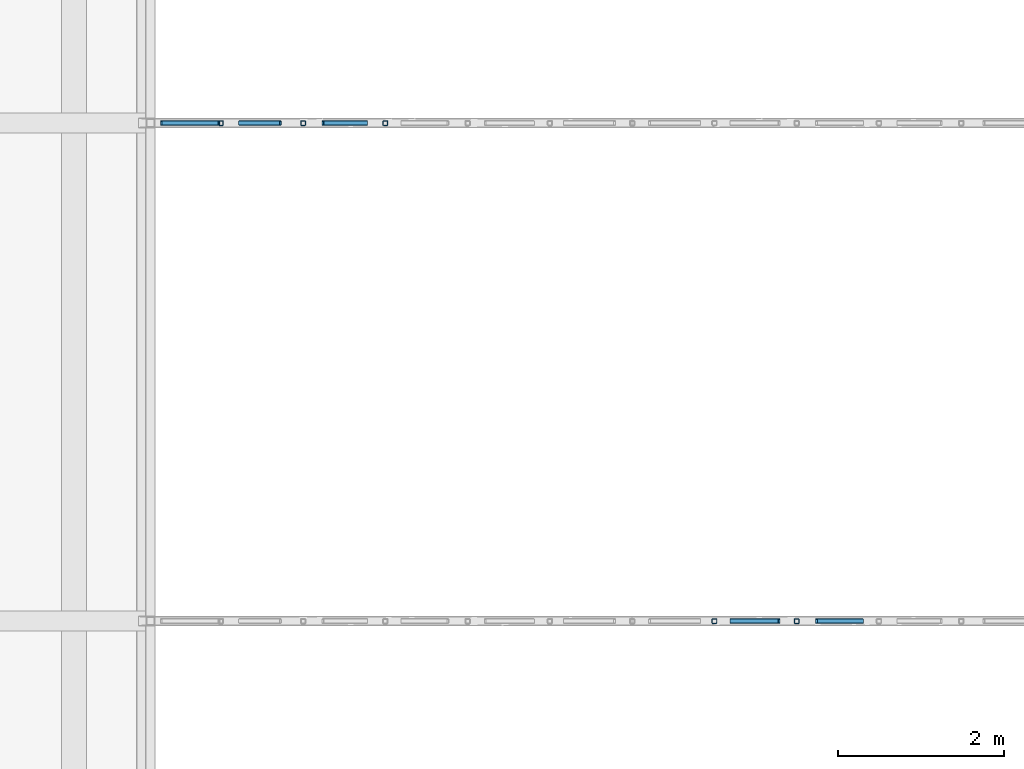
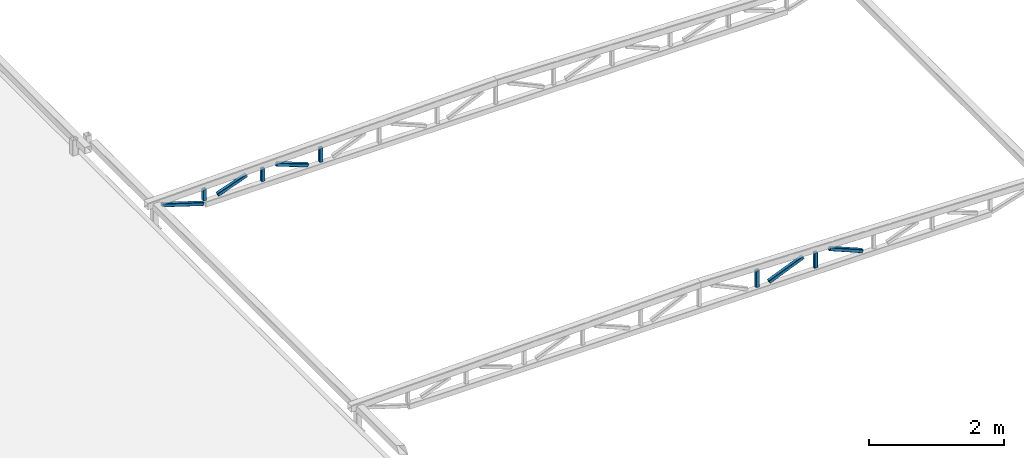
# One storey, part 7 of 12: 10 members, 2 elements without a shape of their own.
"""IFC2X3 building model written with IfcOpenShell, lengths in millimetres."""

from ifc_helpers import new_model, entity, si_unit, converted_unit, derived_unit, direction, frame, frame_2d, origin, place, context, subcontext, project, spatial, polyline, circle_curve, parameter, trimmed, segment, composite_curve, outline, extrude, source, transform, mapped, type_object, type_shapes, element, aggregate, save


model = new_model("IFC2X3")

# Units and contexts
model_context = context("Model", 3, precision=0.01, world=origin(), true_north=direction((6.12303176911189e-17, 1.0)))
body_context = subcontext(model_context, "Body", "Model", "MODEL_VIEW")
ifc_project = project(units=[si_unit("LENGTHUNIT", "METRE", prefix="MILLI"), si_unit("AREAUNIT", "SQUARE_METRE"), si_unit("VOLUMEUNIT", "CUBIC_METRE"), converted_unit("PLANEANGLEUNIT", "DEGREE", entity("IfcRatioMeasure", 0.0174532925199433), si_unit("PLANEANGLEUNIT", "RADIAN"), dimensions=[0, 0, 0, 0, 0, 0, 0]), si_unit("MASSUNIT", "GRAM", prefix="KILO"), derived_unit("MASSDENSITYUNIT", [(si_unit("MASSUNIT", "GRAM", prefix="KILO"), 1), (si_unit("LENGTHUNIT", "METRE"), -3)]), si_unit("TIMEUNIT", "SECOND"), si_unit("FREQUENCYUNIT", "HERTZ"), si_unit("THERMODYNAMICTEMPERATUREUNIT", "DEGREE_CELSIUS"), derived_unit("THERMALTRANSMITTANCEUNIT", [(si_unit("MASSUNIT", "GRAM", prefix="KILO"), 1), (si_unit("THERMODYNAMICTEMPERATUREUNIT", "KELVIN"), -1), (si_unit("TIMEUNIT", "SECOND"), -3)]), derived_unit("VOLUMETRICFLOWRATEUNIT", [(si_unit("LENGTHUNIT", "METRE"), 3), (si_unit("TIMEUNIT", "SECOND"), -1)]), si_unit("ELECTRICCURRENTUNIT", "AMPERE"), si_unit("ELECTRICVOLTAGEUNIT", "VOLT"), si_unit("POWERUNIT", "WATT"), si_unit("FORCEUNIT", "NEWTON", prefix="KILO"), si_unit("ILLUMINANCEUNIT", "LUX"), si_unit("LUMINOUSFLUXUNIT", "LUMEN"), si_unit("LUMINOUSINTENSITYUNIT", "CANDELA"), derived_unit("USERDEFINED", [(si_unit("MASSUNIT", "GRAM", prefix="KILO"), -1), (si_unit("LENGTHUNIT", "METRE"), -2), (si_unit("TIMEUNIT", "SECOND"), 3), (si_unit("LUMINOUSFLUXUNIT", "LUMEN"), 1)]), derived_unit("LINEARVELOCITYUNIT", [(si_unit("LENGTHUNIT", "METRE"), 1), (si_unit("TIMEUNIT", "SECOND"), -1)]), si_unit("PRESSUREUNIT", "PASCAL"), derived_unit("USERDEFINED", [(si_unit("LENGTHUNIT", "METRE"), -2), (si_unit("MASSUNIT", "GRAM", prefix="KILO"), 1), (si_unit("TIMEUNIT", "SECOND"), -2)])], contexts=[model_context])

# Site, building, storey
site_placement = place(None, frame((0.0, 0.0, 101000.0)))
site = spatial("IfcSite", under=ifc_project, at=site_placement, Name="Default", CompositionType="ELEMENT")
building_placement = place(site_placement, origin())
building = spatial("IfcBuilding", under=site, at=building_placement, CompositionType="ELEMENT")
storey_placement = place(building_placement, frame((0.0, 0.0, 6025.0)))
storey = spatial("IfcBuildingStorey", under=building, at=storey_placement, Name="03", CompositionType="ELEMENT", Elevation=6024.9999999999)

# Assembly, member
assembly_1_placement = place(storey_placement, origin())
assembly_1 = element("IfcElementAssembly", 1, at=assembly_1_placement, inside=storey, Name="Gitterdrager:Standard", ObjectType="Gitterdrager:Standard", AssemblyPlace="NOTDEFINED", PredefinedType="TRUSS")
member_type_1 = type_object("IfcMemberType", Name="60x60x5", PredefinedType="BRACE")
shared_shape_1 = source(origin(), body_context, "Body", "SweptSolid", [
    extrude(outline(composite_curve([segment(trimmed(circle_curve(frame_2d((-20.0, -20.0), x_axis=(1.0, 0.0)), 10.0), [parameter(180.0)], [parameter(270.0)], True, "PARAMETER"), True, "CONTINUOUS"), segment(polyline([(-20.0, -30.0), (20.0, -30.0)]), True, "CONTINUOUS"), segment(trimmed(circle_curve(frame_2d((20.0, -20.0), x_axis=(1.0, 0.0)), 10.0), [parameter(270.0)], [parameter(5.08888749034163e-14)], True, "PARAMETER"), True, "CONTINUOUS"), segment(polyline([(30.0, -20.0), (30.0, 20.0)]), True, "CONTINUOUS"), segment(trimmed(circle_curve(frame_2d((20.0, 20.0), x_axis=(1.0, 0.0)), 10.0), [parameter(360.0)], [parameter(89.9999999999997)], True, "PARAMETER"), True, "CONTINUOUS"), segment(polyline([(20.0, 30.0), (-20.0, 30.0)]), True, "CONTINUOUS"), segment(trimmed(circle_curve(frame_2d((-20.0, 20.0), x_axis=(1.0, 0.0)), 10.0), [parameter(90.0000000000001)], [parameter(180.0)], True, "PARAMETER"), True, "CONTINUOUS"), segment(polyline([(-30.0, 20.0), (-30.0, -20.0)]), True, "CONTINUOUS")], self_intersect=False), holes=[composite_curve([segment(polyline([(20.0, -25.0), (-20.0, -25.0)]), True, "CONTINUOUS"), segment(trimmed(circle_curve(frame_2d((-20.0, -20.0), x_axis=(1.0, 0.0)), 5.0), [parameter(180.0)], [parameter(270.0)], True, "PARAMETER"), False, "CONTINUOUS"), segment(polyline([(-25.0, -20.0), (-25.0, 20.0)]), True, "CONTINUOUS"), segment(trimmed(circle_curve(frame_2d((-20.0, 20.0), x_axis=(1.0, 0.0)), 5.0), [parameter(90.0000000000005)], [parameter(180.0)], True, "PARAMETER"), False, "CONTINUOUS"), segment(polyline([(-20.0, 25.0), (20.0, 25.0)]), True, "CONTINUOUS"), segment(trimmed(circle_curve(frame_2d((20.0, 20.0), x_axis=(1.0, 0.0)), 5.0), [parameter(0.0)], [parameter(90.0000000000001)], True, "PARAMETER"), False, "CONTINUOUS"), segment(polyline([(25.0, 20.0), (25.0, -20.0)]), True, "CONTINUOUS"), segment(trimmed(circle_curve(frame_2d((20.0, -20.0), x_axis=(1.0, 0.0)), 5.0), [parameter(270.0)], [parameter(4.57999874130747e-13)], True, "PARAMETER"), False, "CONTINUOUS")], self_intersect=False)]), frame((-155.792423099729, 0.0, 0.0), z_axis=(1.0, 0.0, 0.0), x_axis=(0.0, -1.0, 0.0)), (0.0, 0.0, 1.0), 300.049419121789),
])
type_shapes(member_type_1, [shared_shape_1])
member_1_placement = place(assembly_1_placement, frame((18219.5978303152, 32417.9507529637, -122.531331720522), z_axis=(1.0, 0.0, 0.0), x_axis=(0.0, 0.0, 1.0)))
member_1 = element("IfcMember", 2, at=member_1_placement, type_object=member_type_1, Name="Bjelke HUP:60x60x5", ObjectType="60x60x5", context=body_context, shape_type="MappedRepresentation", body=[
    mapped(shared_shape_1, transform((0.0, 0.0, 0.0), scale=1.0)),
])

# Assembly, members
assembly_2_placement = place(storey_placement, origin())
assembly_2 = element("IfcElementAssembly", 3, at=assembly_2_placement, inside=storey, Name="Gitterdrager:Standard", ObjectType="Gitterdrager:Standard", AssemblyPlace="NOTDEFINED", PredefinedType="TRUSS")
member_type_2 = type_object("IfcMemberType", Name="60x60x5", PredefinedType="BRACE")
shared_shape_2 = source(origin(), body_context, "Body", "SweptSolid", [
    extrude(outline(composite_curve([segment(trimmed(circle_curve(frame_2d((-20.0, -20.0), x_axis=(1.0, 0.0)), 10.0), [parameter(180.0)], [parameter(270.0)], True, "PARAMETER"), True, "CONTINUOUS"), segment(polyline([(-20.0, -30.0), (20.0, -30.0)]), True, "CONTINUOUS"), segment(trimmed(circle_curve(frame_2d((20.0, -20.0), x_axis=(1.0, 0.0)), 10.0), [parameter(270.0)], [parameter(5.08888749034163e-14)], True, "PARAMETER"), True, "CONTINUOUS"), segment(polyline([(30.0, -20.0), (30.0, 20.0)]), True, "CONTINUOUS"), segment(trimmed(circle_curve(frame_2d((20.0, 20.0), x_axis=(1.0, 0.0)), 10.0), [parameter(360.0)], [parameter(89.9999999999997)], True, "PARAMETER"), True, "CONTINUOUS"), segment(polyline([(20.0, 30.0), (-20.0, 30.0)]), True, "CONTINUOUS"), segment(trimmed(circle_curve(frame_2d((-20.0, 20.0), x_axis=(1.0, 0.0)), 10.0), [parameter(90.0000000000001)], [parameter(180.0)], True, "PARAMETER"), True, "CONTINUOUS"), segment(polyline([(-30.0, 20.0), (-30.0, -20.0)]), True, "CONTINUOUS")], self_intersect=False), holes=[composite_curve([segment(polyline([(20.0, -25.0), (-20.0, -25.0)]), True, "CONTINUOUS"), segment(trimmed(circle_curve(frame_2d((-20.0, -20.0), x_axis=(1.0, 0.0)), 5.0), [parameter(180.0)], [parameter(270.0)], True, "PARAMETER"), False, "CONTINUOUS"), segment(polyline([(-25.0, -20.0), (-25.0, 20.0)]), True, "CONTINUOUS"), segment(trimmed(circle_curve(frame_2d((-20.0, 20.0), x_axis=(1.0, 0.0)), 5.0), [parameter(90.0000000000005)], [parameter(180.0)], True, "PARAMETER"), False, "CONTINUOUS"), segment(polyline([(-20.0, 25.0), (20.0, 25.0)]), True, "CONTINUOUS"), segment(trimmed(circle_curve(frame_2d((20.0, 20.0), x_axis=(1.0, 0.0)), 5.0), [parameter(0.0)], [parameter(90.0000000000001)], True, "PARAMETER"), False, "CONTINUOUS"), segment(polyline([(25.0, 20.0), (25.0, -20.0)]), True, "CONTINUOUS"), segment(trimmed(circle_curve(frame_2d((20.0, -20.0), x_axis=(1.0, 0.0)), 5.0), [parameter(270.0)], [parameter(4.57999874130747e-13)], True, "PARAMETER"), False, "CONTINUOUS")], self_intersect=False)]), frame((-130.995453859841, 0.0, 0.0), z_axis=(1.0, 0.0, 0.0), x_axis=(0.0, -1.0, 0.0)), (0.0, 0.0, 1.0), 250.455480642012),
])
type_shapes(member_type_2, [shared_shape_2])
member_2_placement = place(assembly_2_placement, frame((14246.2644969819, 38432.1864743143, -147.328300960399), z_axis=(1.0, 0.0, 0.0), x_axis=(0.0, 0.0, 1.0)))
member_2 = element("IfcMember", 4, at=member_2_placement, type_object=member_type_2, Name="Bjelke HUP:60x60x5", ObjectType="60x60x5", context=body_context, shape_type="MappedRepresentation", body=[
    mapped(shared_shape_2, transform((0.0, 0.0, 0.0), scale=1.0)),
])
member_type_3 = type_object("IfcMemberType", Name="60x60x5", PredefinedType="BRACE")
shared_shape_3 = source(origin(), body_context, "Body", "SweptSolid", [
    extrude(outline(composite_curve([segment(trimmed(circle_curve(frame_2d((-20.0, -20.0), x_axis=(1.0, 0.0)), 10.0), [parameter(180.0)], [parameter(270.0)], True, "PARAMETER"), True, "CONTINUOUS"), segment(polyline([(-20.0, -30.0), (20.0, -30.0)]), True, "CONTINUOUS"), segment(trimmed(circle_curve(frame_2d((20.0, -20.0), x_axis=(1.0, 0.0)), 10.0), [parameter(270.0)], [parameter(5.08888749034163e-14)], True, "PARAMETER"), True, "CONTINUOUS"), segment(polyline([(30.0, -20.0), (30.0, 20.0)]), True, "CONTINUOUS"), segment(trimmed(circle_curve(frame_2d((20.0, 20.0), x_axis=(1.0, 0.0)), 10.0), [parameter(360.0)], [parameter(89.9999999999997)], True, "PARAMETER"), True, "CONTINUOUS"), segment(polyline([(20.0, 30.0), (-20.0, 30.0)]), True, "CONTINUOUS"), segment(trimmed(circle_curve(frame_2d((-20.0, 20.0), x_axis=(1.0, 0.0)), 10.0), [parameter(90.0000000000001)], [parameter(180.0)], True, "PARAMETER"), True, "CONTINUOUS"), segment(polyline([(-30.0, 20.0), (-30.0, -20.0)]), True, "CONTINUOUS")], self_intersect=False), holes=[composite_curve([segment(polyline([(20.0, -25.0), (-20.0, -25.0)]), True, "CONTINUOUS"), segment(trimmed(circle_curve(frame_2d((-20.0, -20.0), x_axis=(1.0, 0.0)), 5.0), [parameter(180.0)], [parameter(270.0)], True, "PARAMETER"), False, "CONTINUOUS"), segment(polyline([(-25.0, -20.0), (-25.0, 20.0)]), True, "CONTINUOUS"), segment(trimmed(circle_curve(frame_2d((-20.0, 20.0), x_axis=(1.0, 0.0)), 5.0), [parameter(90.0000000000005)], [parameter(180.0)], True, "PARAMETER"), False, "CONTINUOUS"), segment(polyline([(-20.0, 25.0), (20.0, 25.0)]), True, "CONTINUOUS"), segment(trimmed(circle_curve(frame_2d((20.0, 20.0), x_axis=(1.0, 0.0)), 5.0), [parameter(0.0)], [parameter(90.0000000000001)], True, "PARAMETER"), False, "CONTINUOUS"), segment(polyline([(25.0, 20.0), (25.0, -20.0)]), True, "CONTINUOUS"), segment(trimmed(circle_curve(frame_2d((20.0, -20.0), x_axis=(1.0, 0.0)), 5.0), [parameter(270.0)], [parameter(4.57999874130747e-13)], True, "PARAMETER"), False, "CONTINUOUS")], self_intersect=False)]), frame((-118.596969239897, 0.0, 0.0), z_axis=(1.0, 0.0, 0.0), x_axis=(0.0, -1.0, 0.0)), (0.0, 0.0, 1.0), 225.658511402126),
])
type_shapes(member_type_3, [shared_shape_3])
member_3_placement = place(assembly_2_placement, frame((13252.9311636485, 38432.1864743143, -159.726785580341), z_axis=(1.0, 0.0, 0.0), x_axis=(0.0, 0.0, 1.0)))
member_3 = element("IfcMember", 5, at=member_3_placement, type_object=member_type_3, Name="Bjelke HUP:60x60x5", ObjectType="60x60x5", context=body_context, shape_type="MappedRepresentation", body=[
    mapped(shared_shape_3, transform((0.0, 0.0, 0.0), scale=1.0)),
])

# Member
member_type_4 = type_object("IfcMemberType", Name="60x60x5", PredefinedType="BRACE")
shared_shape_4 = source(origin(), body_context, "Body", "SweptSolid", [
    extrude(outline(composite_curve([segment(trimmed(circle_curve(frame_2d((-20.0, -20.0), x_axis=(1.0, 0.0)), 10.0), [parameter(180.0)], [parameter(270.0)], True, "PARAMETER"), True, "CONTINUOUS"), segment(polyline([(-20.0, -30.0), (20.0, -30.0)]), True, "CONTINUOUS"), segment(trimmed(circle_curve(frame_2d((20.0, -20.0), x_axis=(1.0, 0.0)), 10.0), [parameter(270.0)], [parameter(5.08888749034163e-14)], True, "PARAMETER"), True, "CONTINUOUS"), segment(polyline([(30.0, -20.0), (30.0, 20.0)]), True, "CONTINUOUS"), segment(trimmed(circle_curve(frame_2d((20.0, 20.0), x_axis=(1.0, 0.0)), 10.0), [parameter(360.0)], [parameter(89.9999999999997)], True, "PARAMETER"), True, "CONTINUOUS"), segment(polyline([(20.0, 30.0), (-20.0, 30.0)]), True, "CONTINUOUS"), segment(trimmed(circle_curve(frame_2d((-20.0, 20.0), x_axis=(1.0, 0.0)), 10.0), [parameter(90.0000000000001)], [parameter(180.0)], True, "PARAMETER"), True, "CONTINUOUS"), segment(polyline([(-30.0, 20.0), (-30.0, -20.0)]), True, "CONTINUOUS")], self_intersect=False), holes=[composite_curve([segment(polyline([(20.0, -25.0), (-20.0, -25.0)]), True, "CONTINUOUS"), segment(trimmed(circle_curve(frame_2d((-20.0, -20.0), x_axis=(1.0, 0.0)), 5.0), [parameter(180.0)], [parameter(270.0)], True, "PARAMETER"), False, "CONTINUOUS"), segment(polyline([(-25.0, -20.0), (-25.0, 20.0)]), True, "CONTINUOUS"), segment(trimmed(circle_curve(frame_2d((-20.0, 20.0), x_axis=(1.0, 0.0)), 5.0), [parameter(90.0000000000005)], [parameter(180.0)], True, "PARAMETER"), False, "CONTINUOUS"), segment(polyline([(-20.0, 25.0), (20.0, 25.0)]), True, "CONTINUOUS"), segment(trimmed(circle_curve(frame_2d((20.0, 20.0), x_axis=(1.0, 0.0)), 5.0), [parameter(0.0)], [parameter(90.0000000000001)], True, "PARAMETER"), False, "CONTINUOUS"), segment(polyline([(25.0, 20.0), (25.0, -20.0)]), True, "CONTINUOUS"), segment(trimmed(circle_curve(frame_2d((20.0, -20.0), x_axis=(1.0, 0.0)), 5.0), [parameter(270.0)], [parameter(4.57999874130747e-13)], True, "PARAMETER"), False, "CONTINUOUS")], self_intersect=False)]), frame((-143.393938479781, 0.0, 0.0), z_axis=(1.0, 0.0, 0.0), x_axis=(0.0, -1.0, 0.0)), (0.0, 0.0, 1.0), 275.252449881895),
])
type_shapes(member_type_4, [shared_shape_4])
member_4_placement = place(assembly_1_placement, frame((19212.9311636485, 32417.9507529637, -134.929816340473), z_axis=(1.0, 0.0, 0.0), x_axis=(0.0, 0.0, 1.0)))
member_4 = element("IfcMember", 6, at=member_4_placement, type_object=member_type_4, Name="Bjelke HUP:60x60x5", ObjectType="60x60x5", context=body_context, shape_type="MappedRepresentation", body=[
    mapped(shared_shape_4, transform((0.0, 0.0, 0.0), scale=1.0)),
])

member_type_5 = type_object("IfcMemberType", Name="60x60x5", PredefinedType="BRACE")
shared_shape_5 = source(origin(), body_context, "Body", "SweptSolid", [
    extrude(outline(composite_curve([segment(trimmed(circle_curve(frame_2d((-20.0, -20.0), x_axis=(1.0, 0.0)), 10.0), [parameter(180.0)], [parameter(270.0)], True, "PARAMETER"), True, "CONTINUOUS"), segment(polyline([(-20.0, -30.0), (20.0, -30.0)]), True, "CONTINUOUS"), segment(trimmed(circle_curve(frame_2d((20.0, -20.0), x_axis=(1.0, 0.0)), 10.0), [parameter(270.0)], [parameter(5.08888749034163e-14)], True, "PARAMETER"), True, "CONTINUOUS"), segment(polyline([(30.0, -20.0), (30.0, 20.0)]), True, "CONTINUOUS"), segment(trimmed(circle_curve(frame_2d((20.0, 20.0), x_axis=(1.0, 0.0)), 10.0), [parameter(360.0)], [parameter(89.9999999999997)], True, "PARAMETER"), True, "CONTINUOUS"), segment(polyline([(20.0, 30.0), (-20.0, 30.0)]), True, "CONTINUOUS"), segment(trimmed(circle_curve(frame_2d((-20.0, 20.0), x_axis=(1.0, 0.0)), 10.0), [parameter(90.0000000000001)], [parameter(180.0)], True, "PARAMETER"), True, "CONTINUOUS"), segment(polyline([(-30.0, 20.0), (-30.0, -20.0)]), True, "CONTINUOUS")], self_intersect=False), holes=[composite_curve([segment(polyline([(20.0, -25.0), (-20.0, -25.0)]), True, "CONTINUOUS"), segment(trimmed(circle_curve(frame_2d((-20.0, -20.0), x_axis=(1.0, 0.0)), 5.0), [parameter(180.0)], [parameter(270.0)], True, "PARAMETER"), False, "CONTINUOUS"), segment(polyline([(-25.0, -20.0), (-25.0, 20.0)]), True, "CONTINUOUS"), segment(trimmed(circle_curve(frame_2d((-20.0, 20.0), x_axis=(1.0, 0.0)), 5.0), [parameter(90.0000000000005)], [parameter(180.0)], True, "PARAMETER"), False, "CONTINUOUS"), segment(polyline([(-20.0, 25.0), (20.0, 25.0)]), True, "CONTINUOUS"), segment(trimmed(circle_curve(frame_2d((20.0, 20.0), x_axis=(1.0, 0.0)), 5.0), [parameter(0.0)], [parameter(90.0000000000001)], True, "PARAMETER"), False, "CONTINUOUS"), segment(polyline([(25.0, 20.0), (25.0, -20.0)]), True, "CONTINUOUS"), segment(trimmed(circle_curve(frame_2d((20.0, -20.0), x_axis=(1.0, 0.0)), 5.0), [parameter(270.0)], [parameter(4.57999874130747e-13)], True, "PARAMETER"), False, "CONTINUOUS")], self_intersect=False)]), frame((-106.198484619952, 0.0, 0.0), z_axis=(1.0, 0.0, 0.0), x_axis=(0.0, -1.0, 0.0)), (0.0, 0.0, 1.0), 200.861542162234),
])
type_shapes(member_type_5, [shared_shape_5])
member_5_placement = place(assembly_2_placement, frame((12259.5978303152, 38432.1864743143, -172.12527020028), z_axis=(1.0, 0.0, 0.0), x_axis=(0.0, 0.0, 1.0)))
member_5 = element("IfcMember", 7, at=member_5_placement, type_object=member_type_5, Name="Bjelke HUP:60x60x5", ObjectType="60x60x5", context=body_context, shape_type="MappedRepresentation", body=[
    mapped(shared_shape_5, transform((0.0, 0.0, 0.0), scale=1.0)),
])

member_type_6 = type_object("IfcMemberType", Name="60x60x5", PredefinedType="BRACE")
shared_shape_6 = source(origin(), body_context, "Body", "SweptSolid", [
    extrude(outline(composite_curve([segment(trimmed(circle_curve(frame_2d((-20.0, -20.0), x_axis=(1.0, 0.0)), 10.0), [parameter(180.0)], [parameter(270.0)], True, "PARAMETER"), True, "CONTINUOUS"), segment(polyline([(-20.0, -30.0), (20.0, -30.0)]), True, "CONTINUOUS"), segment(trimmed(circle_curve(frame_2d((20.0, -20.0), x_axis=(1.0, 0.0)), 10.0), [parameter(270.0)], [parameter(5.08888749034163e-14)], True, "PARAMETER"), True, "CONTINUOUS"), segment(polyline([(30.0, -20.0), (30.0, 20.0)]), True, "CONTINUOUS"), segment(trimmed(circle_curve(frame_2d((20.0, 20.0), x_axis=(1.0, 0.0)), 10.0), [parameter(360.0)], [parameter(89.9999999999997)], True, "PARAMETER"), True, "CONTINUOUS"), segment(polyline([(20.0, 30.0), (-20.0, 30.0)]), True, "CONTINUOUS"), segment(trimmed(circle_curve(frame_2d((-20.0, 20.0), x_axis=(1.0, 0.0)), 10.0), [parameter(90.0000000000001)], [parameter(180.0)], True, "PARAMETER"), True, "CONTINUOUS"), segment(polyline([(-30.0, 20.0), (-30.0, -20.0)]), True, "CONTINUOUS")], self_intersect=False), holes=[composite_curve([segment(polyline([(20.0, -25.0), (-20.0, -25.0)]), True, "CONTINUOUS"), segment(trimmed(circle_curve(frame_2d((-20.0, -20.0), x_axis=(1.0, 0.0)), 5.0), [parameter(180.0)], [parameter(270.0)], True, "PARAMETER"), False, "CONTINUOUS"), segment(polyline([(-25.0, -20.0), (-25.0, 20.0)]), True, "CONTINUOUS"), segment(trimmed(circle_curve(frame_2d((-20.0, 20.0), x_axis=(1.0, 0.0)), 5.0), [parameter(90.0000000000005)], [parameter(180.0)], True, "PARAMETER"), False, "CONTINUOUS"), segment(polyline([(-20.0, 25.0), (20.0, 25.0)]), True, "CONTINUOUS"), segment(trimmed(circle_curve(frame_2d((20.0, 20.0), x_axis=(1.0, 0.0)), 5.0), [parameter(0.0)], [parameter(90.0000000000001)], True, "PARAMETER"), False, "CONTINUOUS"), segment(polyline([(25.0, 20.0), (25.0, -20.0)]), True, "CONTINUOUS"), segment(trimmed(circle_curve(frame_2d((20.0, -20.0), x_axis=(1.0, 0.0)), 5.0), [parameter(270.0)], [parameter(4.57999874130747e-13)], True, "PARAMETER"), False, "CONTINUOUS")], self_intersect=False)]), frame((-273.871385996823, 0.0, 0.0), z_axis=(1.0, 0.0, 0.0), x_axis=(0.0, -1.0, 0.0)), (0.0, 0.0, 1.0), 561.89082896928),
])
type_shapes(member_type_6, [shared_shape_6])
member_6_placement = place(assembly_2_placement, frame((13749.5978303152, 38432.1864743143, -159.726785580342), z_axis=(-0.342896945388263, 0.0, -0.939373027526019), x_axis=(0.939373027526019, 0.0, -0.342896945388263)))
member_6 = element("IfcMember", 8, at=member_6_placement, type_object=member_type_6, Name="Bjelke HUP:60x60x5", ObjectType="60x60x5", context=body_context, shape_type="MappedRepresentation", body=[
    mapped(shared_shape_6, transform((0.0, 0.0, 0.0), scale=1.0)),
])

member_type_7 = type_object("IfcMemberType", Name="60x60x5", PredefinedType="BRACE")
shared_shape_7 = source(origin(), body_context, "Body", "SweptSolid", [
    extrude(outline(composite_curve([segment(trimmed(circle_curve(frame_2d((-20.0, -20.0), x_axis=(1.0, 0.0)), 10.0), [parameter(180.0)], [parameter(270.0)], True, "PARAMETER"), True, "CONTINUOUS"), segment(polyline([(-20.0, -30.0), (20.0, -30.0)]), True, "CONTINUOUS"), segment(trimmed(circle_curve(frame_2d((20.0, -20.0), x_axis=(1.0, 0.0)), 10.0), [parameter(270.0)], [parameter(5.08888749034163e-14)], True, "PARAMETER"), True, "CONTINUOUS"), segment(polyline([(30.0, -20.0), (30.0, 20.0)]), True, "CONTINUOUS"), segment(trimmed(circle_curve(frame_2d((20.0, 20.0), x_axis=(1.0, 0.0)), 10.0), [parameter(360.0)], [parameter(89.9999999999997)], True, "PARAMETER"), True, "CONTINUOUS"), segment(polyline([(20.0, 30.0), (-20.0, 30.0)]), True, "CONTINUOUS"), segment(trimmed(circle_curve(frame_2d((-20.0, 20.0), x_axis=(1.0, 0.0)), 10.0), [parameter(90.0000000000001)], [parameter(180.0)], True, "PARAMETER"), True, "CONTINUOUS"), segment(polyline([(-30.0, 20.0), (-30.0, -20.0)]), True, "CONTINUOUS")], self_intersect=False), holes=[composite_curve([segment(polyline([(20.0, -25.0), (-20.0, -25.0)]), True, "CONTINUOUS"), segment(trimmed(circle_curve(frame_2d((-20.0, -20.0), x_axis=(1.0, 0.0)), 5.0), [parameter(180.0)], [parameter(270.0)], True, "PARAMETER"), False, "CONTINUOUS"), segment(polyline([(-25.0, -20.0), (-25.0, 20.0)]), True, "CONTINUOUS"), segment(trimmed(circle_curve(frame_2d((-20.0, 20.0), x_axis=(1.0, 0.0)), 5.0), [parameter(90.0000000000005)], [parameter(180.0)], True, "PARAMETER"), False, "CONTINUOUS"), segment(polyline([(-20.0, 25.0), (20.0, 25.0)]), True, "CONTINUOUS"), segment(trimmed(circle_curve(frame_2d((20.0, 20.0), x_axis=(1.0, 0.0)), 5.0), [parameter(0.0)], [parameter(90.0000000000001)], True, "PARAMETER"), False, "CONTINUOUS"), segment(polyline([(25.0, 20.0), (25.0, -20.0)]), True, "CONTINUOUS"), segment(trimmed(circle_curve(frame_2d((20.0, -20.0), x_axis=(1.0, 0.0)), 5.0), [parameter(270.0)], [parameter(4.57999874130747e-13)], True, "PARAMETER"), False, "CONTINUOUS")], self_intersect=False)]), frame((-322.274622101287, 0.0, 0.0), z_axis=(1.0, 0.0, 0.0), x_axis=(0.0, -1.0, 0.0)), (0.0, 0.0, 1.0), 630.214484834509),
])
type_shapes(member_type_7, [shared_shape_7])
member_7_placement = place(assembly_1_placement, frame((18716.2644969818, 32417.9507529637, -134.92981634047), z_axis=(0.383267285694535, 0.0, -0.923637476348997), x_axis=(0.923637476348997, 0.0, 0.383267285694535)))
member_7 = element("IfcMember", 9, at=member_7_placement, type_object=member_type_7, Name="Bjelke HUP:60x60x5", ObjectType="60x60x5", context=body_context, shape_type="MappedRepresentation", body=[
    mapped(shared_shape_7, transform((0.0, 0.0, 0.0), scale=1.0)),
])

member_type_8 = type_object("IfcMemberType", Name="60x60x5", PredefinedType="BRACE")
shared_shape_8 = source(origin(), body_context, "Body", "SweptSolid", [
    extrude(outline(composite_curve([segment(trimmed(circle_curve(frame_2d((-20.0, -20.0), x_axis=(1.0, 0.0)), 10.0), [parameter(180.0)], [parameter(270.0)], True, "PARAMETER"), True, "CONTINUOUS"), segment(polyline([(-20.0, -30.0), (20.0, -30.0)]), True, "CONTINUOUS"), segment(trimmed(circle_curve(frame_2d((20.0, -20.0), x_axis=(1.0, 0.0)), 10.0), [parameter(270.0)], [parameter(5.08888749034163e-14)], True, "PARAMETER"), True, "CONTINUOUS"), segment(polyline([(30.0, -20.0), (30.0, 20.0)]), True, "CONTINUOUS"), segment(trimmed(circle_curve(frame_2d((20.0, 20.0), x_axis=(1.0, 0.0)), 10.0), [parameter(360.0)], [parameter(89.9999999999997)], True, "PARAMETER"), True, "CONTINUOUS"), segment(polyline([(20.0, 30.0), (-20.0, 30.0)]), True, "CONTINUOUS"), segment(trimmed(circle_curve(frame_2d((-20.0, 20.0), x_axis=(1.0, 0.0)), 10.0), [parameter(90.0000000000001)], [parameter(180.0)], True, "PARAMETER"), True, "CONTINUOUS"), segment(polyline([(-30.0, 20.0), (-30.0, -20.0)]), True, "CONTINUOUS")], self_intersect=False), holes=[composite_curve([segment(polyline([(20.0, -25.0), (-20.0, -25.0)]), True, "CONTINUOUS"), segment(trimmed(circle_curve(frame_2d((-20.0, -20.0), x_axis=(1.0, 0.0)), 5.0), [parameter(180.0)], [parameter(270.0)], True, "PARAMETER"), False, "CONTINUOUS"), segment(polyline([(-25.0, -20.0), (-25.0, 20.0)]), True, "CONTINUOUS"), segment(trimmed(circle_curve(frame_2d((-20.0, 20.0), x_axis=(1.0, 0.0)), 5.0), [parameter(90.0000000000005)], [parameter(180.0)], True, "PARAMETER"), False, "CONTINUOUS"), segment(polyline([(-20.0, 25.0), (20.0, 25.0)]), True, "CONTINUOUS"), segment(trimmed(circle_curve(frame_2d((20.0, 20.0), x_axis=(1.0, 0.0)), 5.0), [parameter(0.0)], [parameter(90.0000000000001)], True, "PARAMETER"), False, "CONTINUOUS"), segment(polyline([(25.0, 20.0), (25.0, -20.0)]), True, "CONTINUOUS"), segment(trimmed(circle_curve(frame_2d((20.0, -20.0), x_axis=(1.0, 0.0)), 5.0), [parameter(270.0)], [parameter(4.57999874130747e-13)], True, "PARAMETER"), False, "CONTINUOUS")], self_intersect=False)]), frame((-278.55434519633, 0.0, 0.0), z_axis=(1.0, 0.0, 0.0), x_axis=(0.0, -1.0, 0.0)), (0.0, 0.0, 1.0), 600.828967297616),
])
type_shapes(member_type_8, [shared_shape_8])
member_8_placement = place(assembly_1_placement, frame((19709.5978303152, 32417.9507529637, -134.929816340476), z_axis=(-0.383267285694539, 0.0, -0.923637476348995), x_axis=(0.923637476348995, 0.0, -0.383267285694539)))
member_8 = element("IfcMember", 10, at=member_8_placement, type_object=member_type_8, Name="Bjelke HUP:60x60x5", ObjectType="60x60x5", context=body_context, shape_type="MappedRepresentation", body=[
    mapped(shared_shape_8, transform((0.0, 0.0, 0.0), scale=1.0)),
])

aggregate(assembly_1, [member_1, member_4, member_7, member_8])

member_type_9 = type_object("IfcMemberType", Name="60x60x5", PredefinedType="BRACE")
shared_shape_9 = source(origin(), body_context, "Body", "SweptSolid", [
    extrude(outline(composite_curve([segment(trimmed(circle_curve(frame_2d((-20.0, -20.0), x_axis=(1.0, 0.0)), 10.0), [parameter(180.0)], [parameter(270.0)], True, "PARAMETER"), True, "CONTINUOUS"), segment(polyline([(-20.0, -30.0), (20.0, -30.0)]), True, "CONTINUOUS"), segment(trimmed(circle_curve(frame_2d((20.0, -20.0), x_axis=(1.0, 0.0)), 10.0), [parameter(270.0)], [parameter(5.08888749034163e-14)], True, "PARAMETER"), True, "CONTINUOUS"), segment(polyline([(30.0, -20.0), (30.0, 20.0)]), True, "CONTINUOUS"), segment(trimmed(circle_curve(frame_2d((20.0, 20.0), x_axis=(1.0, 0.0)), 10.0), [parameter(360.0)], [parameter(89.9999999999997)], True, "PARAMETER"), True, "CONTINUOUS"), segment(polyline([(20.0, 30.0), (-20.0, 30.0)]), True, "CONTINUOUS"), segment(trimmed(circle_curve(frame_2d((-20.0, 20.0), x_axis=(1.0, 0.0)), 10.0), [parameter(90.0000000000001)], [parameter(180.0)], True, "PARAMETER"), True, "CONTINUOUS"), segment(polyline([(-30.0, 20.0), (-30.0, -20.0)]), True, "CONTINUOUS")], self_intersect=False), holes=[composite_curve([segment(polyline([(20.0, -25.0), (-20.0, -25.0)]), True, "CONTINUOUS"), segment(trimmed(circle_curve(frame_2d((-20.0, -20.0), x_axis=(1.0, 0.0)), 5.0), [parameter(180.0)], [parameter(270.0)], True, "PARAMETER"), False, "CONTINUOUS"), segment(polyline([(-25.0, -20.0), (-25.0, 20.0)]), True, "CONTINUOUS"), segment(trimmed(circle_curve(frame_2d((-20.0, 20.0), x_axis=(1.0, 0.0)), 5.0), [parameter(90.0000000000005)], [parameter(180.0)], True, "PARAMETER"), False, "CONTINUOUS"), segment(polyline([(-20.0, 25.0), (20.0, 25.0)]), True, "CONTINUOUS"), segment(trimmed(circle_curve(frame_2d((20.0, 20.0), x_axis=(1.0, 0.0)), 5.0), [parameter(0.0)], [parameter(90.0000000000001)], True, "PARAMETER"), False, "CONTINUOUS"), segment(polyline([(25.0, 20.0), (25.0, -20.0)]), True, "CONTINUOUS"), segment(trimmed(circle_curve(frame_2d((20.0, -20.0), x_axis=(1.0, 0.0)), 5.0), [parameter(270.0)], [parameter(4.57999874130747e-13)], True, "PARAMETER"), False, "CONTINUOUS")], self_intersect=False)]), frame((-288.01944297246, 0.0, 0.0), z_axis=(1.0, 0.0, 0.0), x_axis=(0.0, -1.0, 0.0)), (0.0, 0.0, 1.0), 524.731615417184),
])
type_shapes(member_type_9, [shared_shape_9])
member_9_placement = place(assembly_2_placement, frame((12756.2644969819, 38432.1864743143, -159.726785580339), z_axis=(0.342896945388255, 0.0, -0.939373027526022), x_axis=(0.939373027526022, 0.0, 0.342896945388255)))
member_9 = element("IfcMember", 11, at=member_9_placement, type_object=member_type_9, Name="Bjelke HUP:60x60x5", ObjectType="60x60x5", context=body_context, shape_type="MappedRepresentation", body=[
    mapped(shared_shape_9, transform((0.0, 0.0, 0.0), scale=1.0)),
])

member_type_10 = type_object("IfcMemberType", Name="60x60x5", PredefinedType="BRACE")
shared_shape_10 = source(origin(), body_context, "Body", "SweptSolid", [
    extrude(outline(composite_curve([segment(trimmed(circle_curve(frame_2d((-20.0, -20.0), x_axis=(1.0, 0.0)), 10.0), [parameter(180.0)], [parameter(270.0)], True, "PARAMETER"), True, "CONTINUOUS"), segment(polyline([(-20.0, -30.0), (20.0, -30.0)]), True, "CONTINUOUS"), segment(trimmed(circle_curve(frame_2d((20.0, -20.0), x_axis=(1.0, 0.0)), 10.0), [parameter(270.0)], [parameter(5.08888749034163e-14)], True, "PARAMETER"), True, "CONTINUOUS"), segment(polyline([(30.0, -20.0), (30.0, 20.0)]), True, "CONTINUOUS"), segment(trimmed(circle_curve(frame_2d((20.0, 20.0), x_axis=(1.0, 0.0)), 10.0), [parameter(360.0)], [parameter(89.9999999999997)], True, "PARAMETER"), True, "CONTINUOUS"), segment(polyline([(20.0, 30.0), (-20.0, 30.0)]), True, "CONTINUOUS"), segment(trimmed(circle_curve(frame_2d((-20.0, 20.0), x_axis=(1.0, 0.0)), 10.0), [parameter(90.0000000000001)], [parameter(180.0)], True, "PARAMETER"), True, "CONTINUOUS"), segment(polyline([(-30.0, 20.0), (-30.0, -20.0)]), True, "CONTINUOUS")], self_intersect=False), holes=[composite_curve([segment(polyline([(20.0, -25.0), (-20.0, -25.0)]), True, "CONTINUOUS"), segment(trimmed(circle_curve(frame_2d((-20.0, -20.0), x_axis=(1.0, 0.0)), 5.0), [parameter(180.0)], [parameter(270.0)], True, "PARAMETER"), False, "CONTINUOUS"), segment(polyline([(-25.0, -20.0), (-25.0, 20.0)]), True, "CONTINUOUS"), segment(trimmed(circle_curve(frame_2d((-20.0, 20.0), x_axis=(1.0, 0.0)), 5.0), [parameter(90.0000000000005)], [parameter(180.0)], True, "PARAMETER"), False, "CONTINUOUS"), segment(polyline([(-20.0, 25.0), (20.0, 25.0)]), True, "CONTINUOUS"), segment(trimmed(circle_curve(frame_2d((20.0, 20.0), x_axis=(1.0, 0.0)), 5.0), [parameter(0.0)], [parameter(90.0000000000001)], True, "PARAMETER"), False, "CONTINUOUS"), segment(polyline([(25.0, 20.0), (25.0, -20.0)]), True, "CONTINUOUS"), segment(trimmed(circle_curve(frame_2d((20.0, -20.0), x_axis=(1.0, 0.0)), 5.0), [parameter(270.0)], [parameter(4.57999874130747e-13)], True, "PARAMETER"), False, "CONTINUOUS")], self_intersect=False)]), frame((-233.100976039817, 0.0, 0.0), z_axis=(1.0, 0.0, 0.0), x_axis=(0.0, -1.0, 0.0)), (0.0, 0.0, 1.0), 731.687840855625),
])
type_shapes(member_type_10, [shared_shape_10])
member_10_placement = place(assembly_2_placement, frame((11762.9311636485, 38432.1864743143, -184.523754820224), z_axis=(-0.300533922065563, 0.0, -0.95377112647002), x_axis=(0.95377112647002, 0.0, -0.300533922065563)))
member_10 = element("IfcMember", 12, at=member_10_placement, type_object=member_type_10, Name="Bjelke HUP:60x60x5", ObjectType="60x60x5", context=body_context, shape_type="MappedRepresentation", body=[
    mapped(shared_shape_10, transform((0.0, 0.0, 0.0), scale=1.0)),
])

aggregate(assembly_2, [member_2, member_3, member_5, member_6, member_9, member_10])

save(model, "model.ifc")
